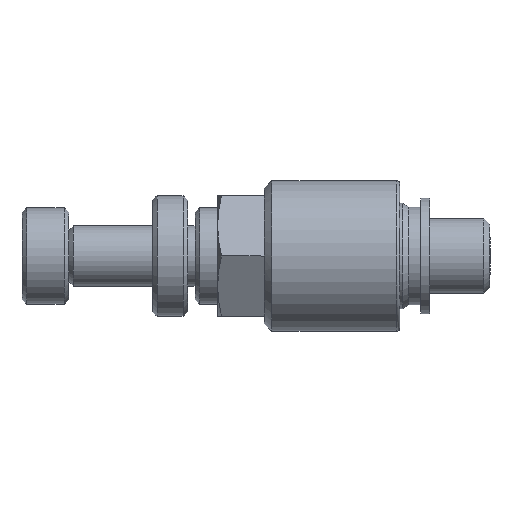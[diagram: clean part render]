
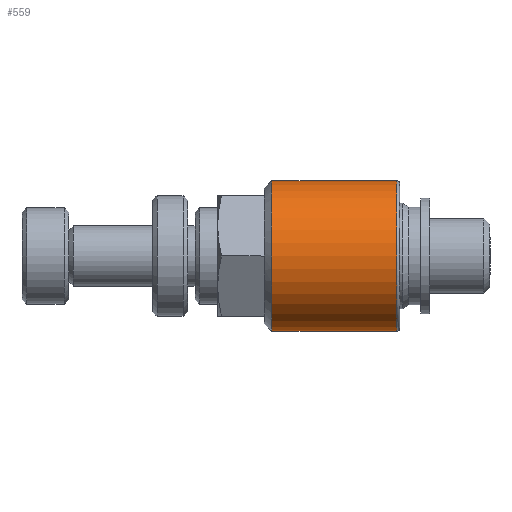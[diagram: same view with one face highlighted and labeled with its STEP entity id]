
A CAD part, left-side view. The second image highlights one B-rep face of the part: STEP entity #559.
In plain terms, the highlighted cylindrical face has radius 5 mm (diameter 10 mm), a partial arc.
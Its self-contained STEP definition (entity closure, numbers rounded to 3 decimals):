
#194 = CIRCLE ( 'NONE', #1340, 5. ) ;
#426 = CARTESIAN_POINT ( 'NONE',  ( 0., 3.9, -5. ) ) ;
#559 = ADVANCED_FACE ( 'NONE', ( #1960 ), #1964, .T. ) ;
#576 = VERTEX_POINT ( 'NONE', #1935 ) ;
#761 = DIRECTION ( 'NONE',  ( 0., -1., 0. ) ) ;
#842 = DIRECTION ( 'NONE',  ( 0., 1., 0. ) ) ;
#858 = EDGE_CURVE ( 'NONE', #3323, #576, #1494, .T. ) ;
#879 = CARTESIAN_POINT ( 'NONE',  ( 0., -4.4, 0. ) ) ;
#1340 = AXIS2_PLACEMENT_3D ( 'NONE', #879, #842, #2187 ) ;
#1392 = CARTESIAN_POINT ( 'NONE',  ( 0., -4.4, 5. ) ) ;
#1414 = AXIS2_PLACEMENT_3D ( 'NONE', #1961, #1686, #2537 ) ;
#1494 = LINE ( 'NONE', #2886, #3268 ) ;
#1631 = DIRECTION ( 'NONE',  ( 0., -1., 0. ) ) ;
#1661 = CARTESIAN_POINT ( 'NONE',  ( 0., 20.5, 0. ) ) ;
#1686 = DIRECTION ( 'NONE',  ( 0., -1., 0. ) ) ;
#1735 = EDGE_CURVE ( 'NONE', #2411, #3399, #2950, .T. ) ;
#1807 = ORIENTED_EDGE ( 'NONE', *, *, #3375, .T. ) ;
#1867 = CIRCLE ( 'NONE', #1414, 5. ) ;
#1935 = CARTESIAN_POINT ( 'NONE',  ( 0., -4.4, -5. ) ) ;
#1960 = FACE_OUTER_BOUND ( 'NONE', #2341, .T. ) ;
#1961 = CARTESIAN_POINT ( 'NONE',  ( 0., 3.9, 0. ) ) ;
#1964 = CYLINDRICAL_SURFACE ( 'NONE', #3159, 5. ) ;
#2105 = DIRECTION ( 'NONE',  ( 0., -1., 0. ) ) ;
#2187 = DIRECTION ( 'NONE',  ( 0., 0., -1. ) ) ;
#2191 = DIRECTION ( 'NONE',  ( 0., 0., -1. ) ) ;
#2341 = EDGE_LOOP ( 'NONE', ( #3163, #3160, #2364, #1807 ) ) ;
#2364 = ORIENTED_EDGE ( 'NONE', *, *, #858, .T. ) ;
#2411 = VERTEX_POINT ( 'NONE', #2709 ) ;
#2428 = EDGE_CURVE ( 'NONE', #2411, #3323, #1867, .T. ) ;
#2447 = VECTOR ( 'NONE', #2105, 1000. ) ;
#2537 = DIRECTION ( 'NONE',  ( 0., 0., -1. ) ) ;
#2709 = CARTESIAN_POINT ( 'NONE',  ( 0., 3.9, 5. ) ) ;
#2886 = CARTESIAN_POINT ( 'NONE',  ( 0., 20.5, -5. ) ) ;
#2889 = CARTESIAN_POINT ( 'NONE',  ( 0., 20.5, 5. ) ) ;
#2950 = LINE ( 'NONE', #2889, #2447 ) ;
#3159 = AXIS2_PLACEMENT_3D ( 'NONE', #1661, #1631, #2191 ) ;
#3160 = ORIENTED_EDGE ( 'NONE', *, *, #2428, .T. ) ;
#3163 = ORIENTED_EDGE ( 'NONE', *, *, #1735, .F. ) ;
#3268 = VECTOR ( 'NONE', #761, 1000. ) ;
#3323 = VERTEX_POINT ( 'NONE', #426 ) ;
#3375 = EDGE_CURVE ( 'NONE', #576, #3399, #194, .T. ) ;
#3399 = VERTEX_POINT ( 'NONE', #1392 ) ;
